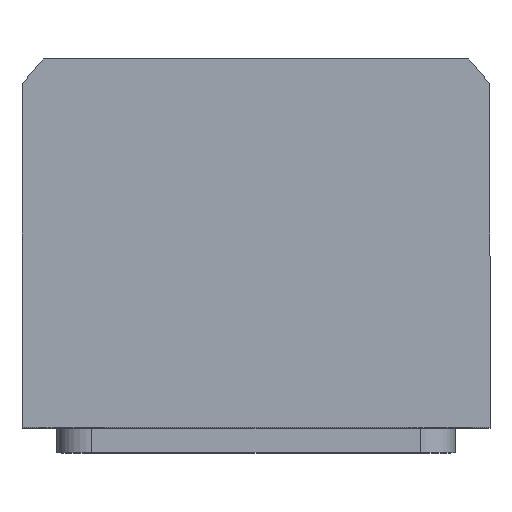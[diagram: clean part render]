
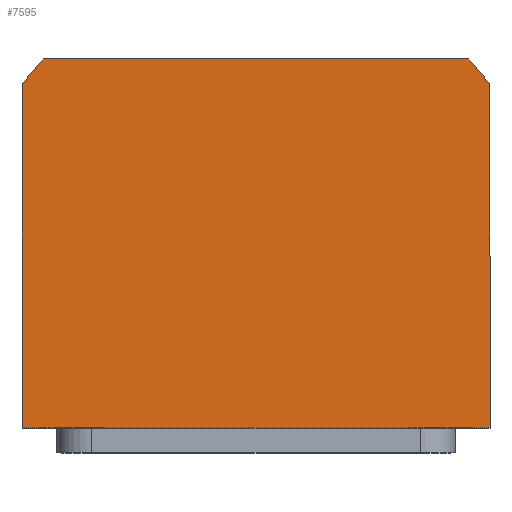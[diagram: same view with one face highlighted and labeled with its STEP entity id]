
A CAD part, top view. The second image highlights one B-rep face of the part: STEP entity #7595.
In plain terms, the highlighted planar face has unit normal (0, 0, 1).
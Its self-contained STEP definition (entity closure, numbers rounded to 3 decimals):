
#99 = DIRECTION ( 'NONE',  ( 0., 1., 0. ) ) ;
#105 = LINE ( 'NONE', #9666, #2702 ) ;
#539 = EDGE_CURVE ( 'NONE', #1466, #3872, #8305, .T. ) ;
#940 = ORIENTED_EDGE ( 'NONE', *, *, #539, .T. ) ;
#1100 = AXIS2_PLACEMENT_3D ( 'NONE', #2167, #3937, #10925 ) ;
#1282 = EDGE_CURVE ( 'NONE', #3872, #11059, #4618, .T. ) ;
#1401 = DIRECTION ( 'NONE',  ( 0., -1., 0. ) ) ;
#1466 = VERTEX_POINT ( 'NONE', #5349 ) ;
#1484 = CARTESIAN_POINT ( 'NONE',  ( 42.688, 40., 57.5 ) ) ;
#1812 = VERTEX_POINT ( 'NONE', #2025 ) ;
#1886 = DIRECTION ( 'NONE',  ( 0., 0., 1. ) ) ;
#2025 = CARTESIAN_POINT ( 'NONE',  ( 47., 34.832, 57.5 ) ) ;
#2077 = AXIS2_PLACEMENT_3D ( 'NONE', #7140, #1886, #4539 ) ;
#2167 = CARTESIAN_POINT ( 'NONE',  ( 0., 0., 57.5 ) ) ;
#2169 = DIRECTION ( 'NONE',  ( -1., 0., 0. ) ) ;
#2183 = ORIENTED_EDGE ( 'NONE', *, *, #6600, .T. ) ;
#2259 = CARTESIAN_POINT ( 'NONE',  ( 0., 0., 57.5 ) ) ;
#2378 = ORIENTED_EDGE ( 'NONE', *, *, #2579, .T. ) ;
#2579 = EDGE_CURVE ( 'NONE', #11266, #9314, #5139, .T. ) ;
#2702 = VECTOR ( 'NONE', #99, 1000. ) ;
#3029 = EDGE_CURVE ( 'NONE', #1812, #11266, #3781, .T. ) ;
#3193 = CARTESIAN_POINT ( 'NONE',  ( 47., -34., 57.5 ) ) ;
#3228 = CARTESIAN_POINT ( 'NONE',  ( 47., -34., 57.5 ) ) ;
#3781 = CIRCLE ( 'NONE', #1100, 58.5 ) ;
#3872 = VERTEX_POINT ( 'NONE', #9888 ) ;
#3925 = DIRECTION ( 'NONE',  ( 0., 0., 1. ) ) ;
#3937 = DIRECTION ( 'NONE',  ( 0., 0., 1. ) ) ;
#3983 = EDGE_LOOP ( 'NONE', ( #4827, #2183, #9138, #2378, #4504, #940 ) ) ;
#4028 = DIRECTION ( 'NONE',  ( 1., 0., 0. ) ) ;
#4504 = ORIENTED_EDGE ( 'NONE', *, *, #5227, .T. ) ;
#4539 = DIRECTION ( 'NONE',  ( 1., 0., 0. ) ) ;
#4618 = LINE ( 'NONE', #3228, #10074 ) ;
#4827 = ORIENTED_EDGE ( 'NONE', *, *, #1282, .T. ) ;
#4962 = DIRECTION ( 'NONE',  ( 1., 0., 0. ) ) ;
#5139 = LINE ( 'NONE', #7413, #10323 ) ;
#5227 = EDGE_CURVE ( 'NONE', #9314, #1466, #5456, .T. ) ;
#5349 = CARTESIAN_POINT ( 'NONE',  ( -47., 34.832, 57.5 ) ) ;
#5456 = CIRCLE ( 'NONE', #8776, 58.5 ) ;
#6600 = EDGE_CURVE ( 'NONE', #11059, #1812, #105, .T. ) ;
#6798 = FACE_OUTER_BOUND ( 'NONE', #3983, .T. ) ;
#7140 = CARTESIAN_POINT ( 'NONE',  ( 0., 0., 57.5 ) ) ;
#7413 = CARTESIAN_POINT ( 'NONE',  ( -42.688, 40., 57.5 ) ) ;
#7595 = ADVANCED_FACE ( 'NONE', ( #6798 ), #8148, .T. ) ;
#8148 = PLANE ( 'NONE',  #2077 ) ;
#8305 = LINE ( 'NONE', #11293, #8989 ) ;
#8776 = AXIS2_PLACEMENT_3D ( 'NONE', #2259, #3925, #4028 ) ;
#8989 = VECTOR ( 'NONE', #1401, 1000. ) ;
#9138 = ORIENTED_EDGE ( 'NONE', *, *, #3029, .T. ) ;
#9314 = VERTEX_POINT ( 'NONE', #10632 ) ;
#9666 = CARTESIAN_POINT ( 'NONE',  ( 47., 34.832, 57.5 ) ) ;
#9888 = CARTESIAN_POINT ( 'NONE',  ( -47., -34., 57.5 ) ) ;
#10074 = VECTOR ( 'NONE', #4962, 1000. ) ;
#10323 = VECTOR ( 'NONE', #2169, 1000. ) ;
#10632 = CARTESIAN_POINT ( 'NONE',  ( -42.688, 40., 57.5 ) ) ;
#10925 = DIRECTION ( 'NONE',  ( 1., 0., 0. ) ) ;
#11059 = VERTEX_POINT ( 'NONE', #3193 ) ;
#11266 = VERTEX_POINT ( 'NONE', #1484 ) ;
#11293 = CARTESIAN_POINT ( 'NONE',  ( -47., -34., 57.5 ) ) ;
